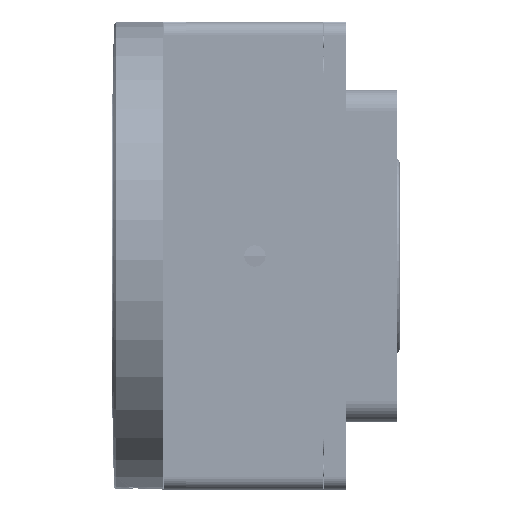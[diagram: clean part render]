
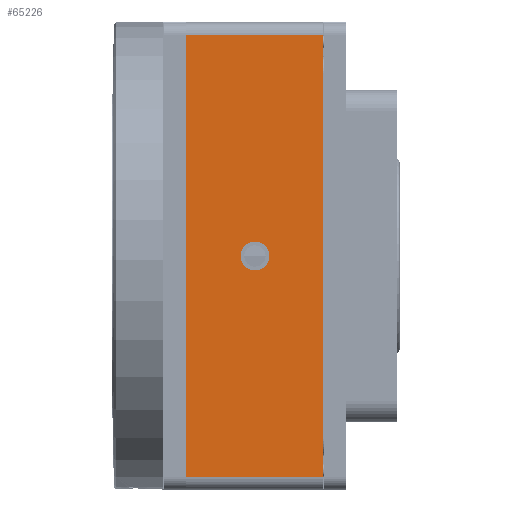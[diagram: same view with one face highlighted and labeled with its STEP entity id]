
A CAD part, left-side view. The second image highlights one B-rep face of the part: STEP entity #65226.
In plain terms, the highlighted planar face has unit normal (-1, 0, 0).
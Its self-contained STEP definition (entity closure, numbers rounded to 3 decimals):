
#3534 = DIRECTION ( 'NONE',  ( 0., 0., 1. ) ) ;
#8532 = CIRCLE ( 'NONE', #39437, 3.4 ) ;
#8987 = EDGE_LOOP ( 'NONE', ( #44877, #113138, #95906, #76112 ) ) ;
#10666 = PLANE ( 'NONE',  #82193 ) ;
#11058 = LINE ( 'NONE', #31037, #35474 ) ;
#11481 = CARTESIAN_POINT ( 'NONE',  ( -143., 21.5, 3.4 ) ) ;
#11566 = CARTESIAN_POINT ( 'NONE',  ( -143., 5.4, 52. ) ) ;
#21332 = DIRECTION ( 'NONE',  ( 0., 0., -1. ) ) ;
#26884 = CARTESIAN_POINT ( 'NONE',  ( -143., 21.5, 0. ) ) ;
#28100 = CARTESIAN_POINT ( 'NONE',  ( -143., 43., -55. ) ) ;
#29113 = ORIENTED_EDGE ( 'NONE', *, *, #31405, .F. ) ;
#29733 = LINE ( 'NONE', #60067, #117887 ) ;
#29904 = EDGE_CURVE ( 'NONE', #116646, #66646, #11058, .T. ) ;
#31037 = CARTESIAN_POINT ( 'NONE',  ( -143., 37.6, -55. ) ) ;
#31405 = EDGE_CURVE ( 'NONE', #125070, #59666, #124610, .T. ) ;
#32079 = VERTEX_POINT ( 'NONE', #11566 ) ;
#35474 = VECTOR ( 'NONE', #40673, 1000. ) ;
#36498 = DIRECTION ( 'NONE',  ( -1., 0., 0. ) ) ;
#39437 = AXIS2_PLACEMENT_3D ( 'NONE', #26884, #36498, #115312 ) ;
#40518 = EDGE_CURVE ( 'NONE', #32079, #66646, #90217, .T. ) ;
#40673 = DIRECTION ( 'NONE',  ( 0., 0., 1. ) ) ;
#41636 = CARTESIAN_POINT ( 'NONE',  ( -143., 21.5, 0. ) ) ;
#44877 = ORIENTED_EDGE ( 'NONE', *, *, #78119, .F. ) ;
#50008 = DIRECTION ( 'NONE',  ( 1., 0., 0. ) ) ;
#50878 = VECTOR ( 'NONE', #58553, 1000. ) ;
#55393 = EDGE_CURVE ( 'NONE', #59666, #125070, #8532, .T. ) ;
#58553 = DIRECTION ( 'NONE',  ( 0., 1., 0. ) ) ;
#59666 = VERTEX_POINT ( 'NONE', #122993 ) ;
#59708 = FACE_OUTER_BOUND ( 'NONE', #8987, .T. ) ;
#60067 = CARTESIAN_POINT ( 'NONE',  ( -143., 5.4, -55. ) ) ;
#62864 = CARTESIAN_POINT ( 'NONE',  ( -143., 37.6, -52. ) ) ;
#65226 = ADVANCED_FACE ( 'NONE', ( #117825, #59708 ), #10666, .F. ) ;
#66646 = VERTEX_POINT ( 'NONE', #88781 ) ;
#67778 = DIRECTION ( 'NONE',  ( 0., -1., 0. ) ) ;
#68148 = ORIENTED_EDGE ( 'NONE', *, *, #55393, .F. ) ;
#69391 = DIRECTION ( 'NONE',  ( 0., 0., -1. ) ) ;
#76112 = ORIENTED_EDGE ( 'NONE', *, *, #100957, .T. ) ;
#78119 = EDGE_CURVE ( 'NONE', #32079, #91362, #29733, .T. ) ;
#81081 = DIRECTION ( 'NONE',  ( -1., 0., 0. ) ) ;
#82193 = AXIS2_PLACEMENT_3D ( 'NONE', #28100, #50008, #69391 ) ;
#88781 = CARTESIAN_POINT ( 'NONE',  ( -143., 37.6, 52. ) ) ;
#90217 = LINE ( 'NONE', #108900, #50878 ) ;
#91362 = VERTEX_POINT ( 'NONE', #110679 ) ;
#91756 = EDGE_LOOP ( 'NONE', ( #29113, #68148 ) ) ;
#95906 = ORIENTED_EDGE ( 'NONE', *, *, #29904, .F. ) ;
#100957 = EDGE_CURVE ( 'NONE', #116646, #91362, #114909, .T. ) ;
#108900 = CARTESIAN_POINT ( 'NONE',  ( -143., 43., 52. ) ) ;
#110679 = CARTESIAN_POINT ( 'NONE',  ( -143., 5.4, -52. ) ) ;
#113138 = ORIENTED_EDGE ( 'NONE', *, *, #40518, .T. ) ;
#114909 = LINE ( 'NONE', #116806, #119409 ) ;
#115312 = DIRECTION ( 'NONE',  ( 0., 0., 1. ) ) ;
#116646 = VERTEX_POINT ( 'NONE', #62864 ) ;
#116806 = CARTESIAN_POINT ( 'NONE',  ( -143., 43., -52. ) ) ;
#117825 = FACE_BOUND ( 'NONE', #91756, .T. ) ;
#117887 = VECTOR ( 'NONE', #21332, 1000. ) ;
#119409 = VECTOR ( 'NONE', #67778, 1000. ) ;
#122993 = CARTESIAN_POINT ( 'NONE',  ( -143., 21.5, -3.4 ) ) ;
#124610 = CIRCLE ( 'NONE', #126649, 3.4 ) ;
#125070 = VERTEX_POINT ( 'NONE', #11481 ) ;
#126649 = AXIS2_PLACEMENT_3D ( 'NONE', #41636, #81081, #3534 ) ;
